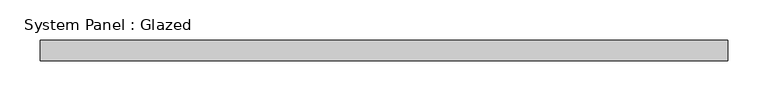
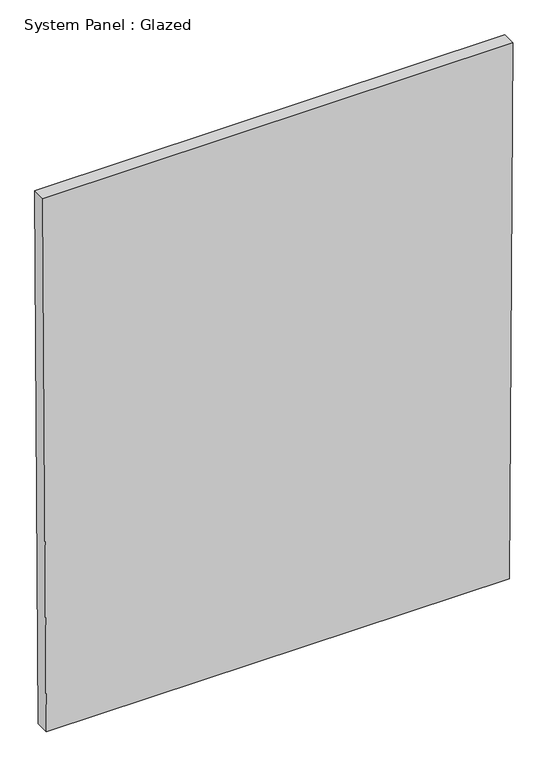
"""IFC4 building model written with IfcOpenShell, lengths in millimetres: plate geometry, System Panel : Glazed."""

from ifc_helpers import new_model, si_unit, frame, origin, place, context, project, spatial, polyline, outline, extrude, source, transform, mapped, element, save


def system_panel_glazed_b4261101(model_context):
    return source(origin(), model_context, "Body", "SweptSolid", [
        extrude(outline(polyline([(0.0, -421.974103), (0.0, 421.974103), (1029.0027404, 428.072928), (1029.0027404, -428.072928), (0.0, -421.974103)])), frame((0.0, -44.45, 0.0), z_axis=(0.0, 1.0, 0.0), x_axis=(0.0, 0.0, 1.0)), (0.0, 0.0, 1.0), 25.4),
    ])


if __name__ == "__main__":
    model = new_model("IFC4")
    model_context = context("Model", 3, world=origin())
    ifc_project = project(units=[si_unit("LENGTHUNIT", "METRE", prefix="MILLI")], contexts=[model_context])
    site = spatial("IfcSite", under=ifc_project)
    building = spatial("IfcBuilding", under=site)
    placement = place(None, origin())
    system_panel_glazed_shape = system_panel_glazed_b4261101(model_context)
    element("IfcPlate", 1, ObjectType="System Panel : Glazed", at=placement, inside=building, context=model_context, shape_type="MappedRepresentation", body=[
        mapped(system_panel_glazed_shape, transform((0.0, 0.0, 0.0), x_axis=(1.0, 0.0, 0.0), y_axis=(0.0, 1.0, 0.0), z_axis=(0.0, 0.0, 1.0))),
    ])
    save(model, "model.ifc")
